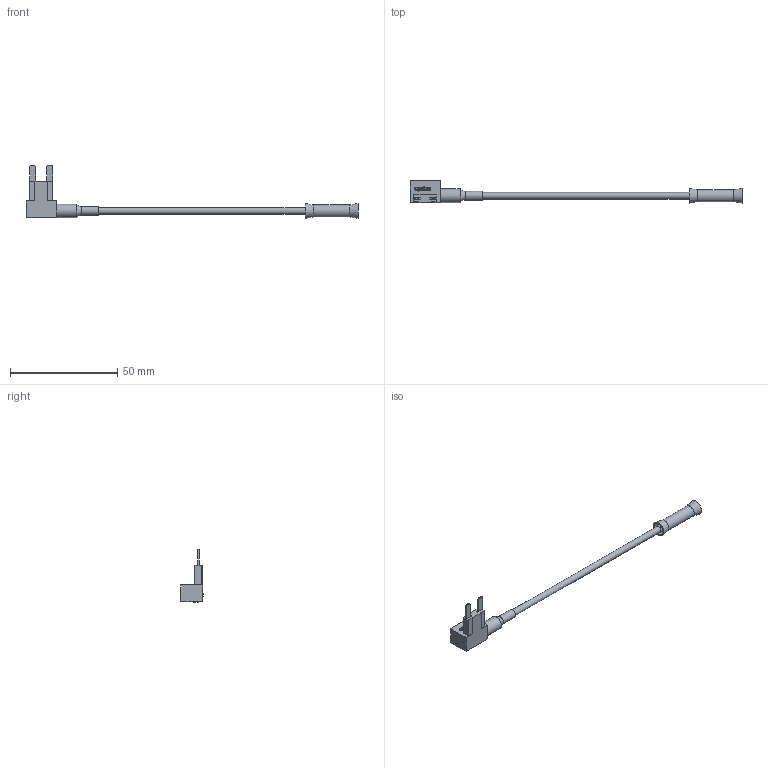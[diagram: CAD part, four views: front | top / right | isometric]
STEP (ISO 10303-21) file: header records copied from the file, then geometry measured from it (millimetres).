
FILE_DESCRIPTION(/* description */ (''),/* implementation_level */ '2;1');
FILE_NAME(/* name */ 'C:\Users\Hani\Desktop\work\LPM-08\LPM-08.stp',/* time_stamp */ '2021-07-24T11:28:22-07:00',/* author */ ('Hani'),/* organization */ (''),/* preprocessor_version */ 'ST-DEVELOPER v17',/* originating_system */ 'Autodesk Inventor 2019',/* authorisation */ '');
FILE_SCHEMA (('AUTOMOTIVE_DESIGN { 1 0 10303 214 3 1 1 }'));
Length unit declared in the file: inch
Products named in the file (1): LPT-08
Bounding box: 154.84 x 10.5 x 24.72 mm (x, y, z)
Volume: 3087.2 mm3; surface area: 3136.5 mm2
Topology: 1 solids, 1 shells, 209 faces, 555 edges, 368 vertices
Faces by surface type: plane 129, bspline 67, cylinder 7, cone 5, torus 1
Full cylindrical faces by diameter (mm): 3.048 x2, 4.064 x1, 5.588 x1, 6.35 x1
Entity records: 6904 total; most frequent: CARTESIAN_POINT 2004, ORIENTED_EDGE 1110, DIRECTION 732, EDGE_CURVE 555, LINE 396, VECTOR 396, VERTEX_POINT 368, EDGE_LOOP 229
